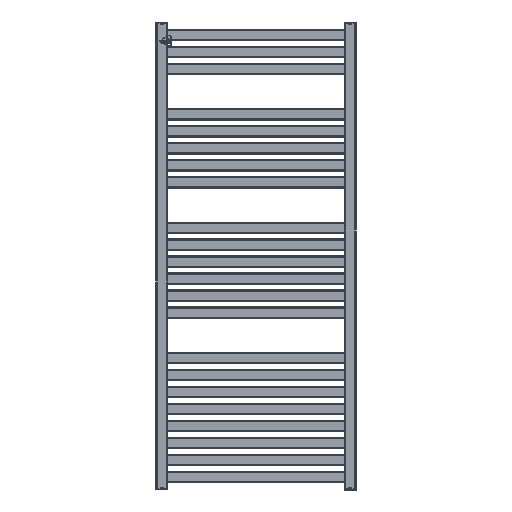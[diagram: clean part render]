
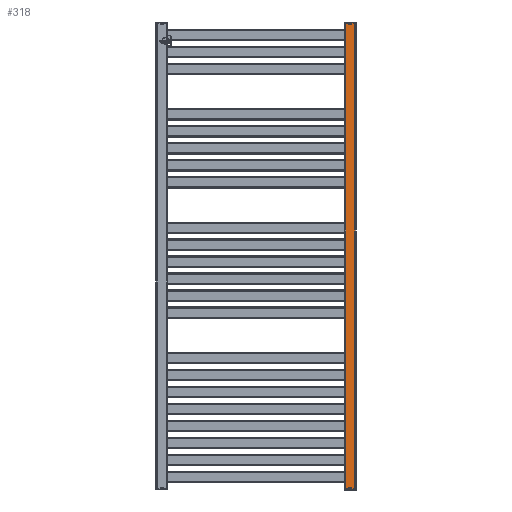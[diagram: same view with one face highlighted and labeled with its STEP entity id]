
A CAD part, front view. The second image highlights one B-rep face of the part: STEP entity #318.
In plain terms, the highlighted planar face has unit normal (0, -1, 0) as drawn and (-1, 0, 0) by its records, which use the part's own axes.
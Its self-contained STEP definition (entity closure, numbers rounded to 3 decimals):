
#318 = ADVANCED_FACE( '', ( #861 ), #862, .T. );
#861 = FACE_OUTER_BOUND( '', #1711, .T. );
#862 = PLANE( '', #1712 );
#1711 = EDGE_LOOP( '', ( #2631, #2632, #2633, #2634 ) );
#1712 = AXIS2_PLACEMENT_3D( '', #2635, #2636, #2637 );
#2631 = ORIENTED_EDGE( '', *, *, #4882, .T. );
#2632 = ORIENTED_EDGE( '', *, *, #4883, .T. );
#2633 = ORIENTED_EDGE( '', *, *, #4884, .F. );
#2634 = ORIENTED_EDGE( '', *, *, #4885, .T. );
#2635 = CARTESIAN_POINT( '', ( -15., 1236., 15. ) );
#2636 = DIRECTION( '', ( -1., 0., 0. ) );
#2637 = DIRECTION( '', ( 0., 0., 1. ) );
#4882 = EDGE_CURVE( '', #5832, #5833, #5834, .T. );
#4883 = EDGE_CURVE( '', #5833, #5835, #5836, .T. );
#4884 = EDGE_CURVE( '', #5837, #5835, #5838, .T. );
#4885 = EDGE_CURVE( '', #5837, #5832, #5839, .F. );
#5832 = VERTEX_POINT( '', #7216 );
#5833 = VERTEX_POINT( '', #7217 );
#5834 = LINE( '', #7218, #7219 );
#5835 = VERTEX_POINT( '', #7220 );
#5836 = LINE( '', #7221, #7222 );
#5837 = VERTEX_POINT( '', #7223 );
#5838 = LINE( '', #7224, #7225 );
#5839 = LINE( '', #7226, #7227 );
#7216 = CARTESIAN_POINT( '', ( -15., 1236., 12. ) );
#7217 = CARTESIAN_POINT( '', ( -15., 1236., -12. ) );
#7218 = CARTESIAN_POINT( '', ( -15., 1236., 15. ) );
#7219 = VECTOR( '', #8964, 1000. );
#7220 = CARTESIAN_POINT( '', ( -15., 0., -12. ) );
#7221 = CARTESIAN_POINT( '', ( -15., 1236., -12. ) );
#7222 = VECTOR( '', #8965, 1000. );
#7223 = CARTESIAN_POINT( '', ( -15., 0., 12. ) );
#7224 = CARTESIAN_POINT( '', ( -15., 0., 15. ) );
#7225 = VECTOR( '', #8966, 1000. );
#7226 = CARTESIAN_POINT( '', ( -15., 1236., 12. ) );
#7227 = VECTOR( '', #8967, 1000. );
#8964 = DIRECTION( '', ( 0., 0., -1. ) );
#8965 = DIRECTION( '', ( 0., -1., 0. ) );
#8966 = DIRECTION( '', ( 0., 0., -1. ) );
#8967 = DIRECTION( '', ( 0., -1., 0. ) );
